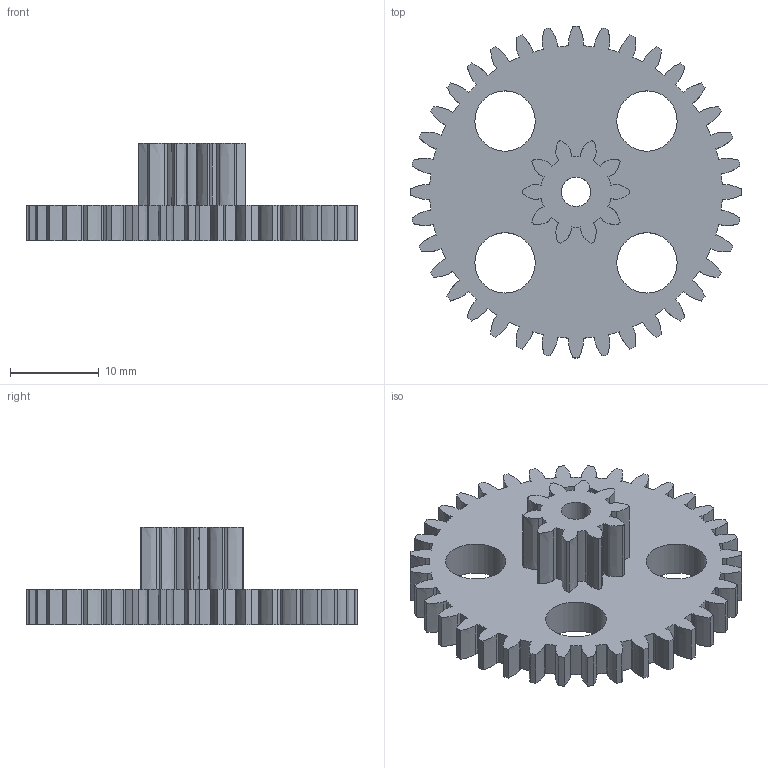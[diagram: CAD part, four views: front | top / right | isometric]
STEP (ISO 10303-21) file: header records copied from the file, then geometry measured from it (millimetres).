
FILE_DESCRIPTION(('Open CASCADE Model'),'2;1');
FILE_NAME('Open CASCADE Shape Model','2026-10-05T13:03:07',('Author'),( 'Open CASCADE'),'Open CASCADE STEP processor 7.9','Open CASCADE 7.9' ,'Unknown');
FILE_SCHEMA(('AUTOMOTIVE_DESIGN { 1 0 10303 214 1 1 1 1 }'));
Length unit declared in the file: millimetre
Products named in the file (1): Open CASCADE STEP translator 7.9 20
Bounding box: 37.4 x 37.4 x 11 mm (x, y, z)
Volume: 3714.9 mm3; surface area: 3431 mm2
Topology: 1 solids, 1 shells, 284 faces, 843 edges, 562 vertices
Faces by surface type: cylinder 97, plane 95, extrusion 92
Full cylindrical faces by diameter (mm): 3.3 x1, 6.8 x4
Entity records: 22974 total; most frequent: CARTESIAN_POINT 6596, DIRECTION 2833, VECTOR 1865, LINE 1773, ORIENTED_EDGE 1686, PCURVE 1686, DEFINITIONAL_REPRESENTATION 1686, EDGE_CURVE 843
